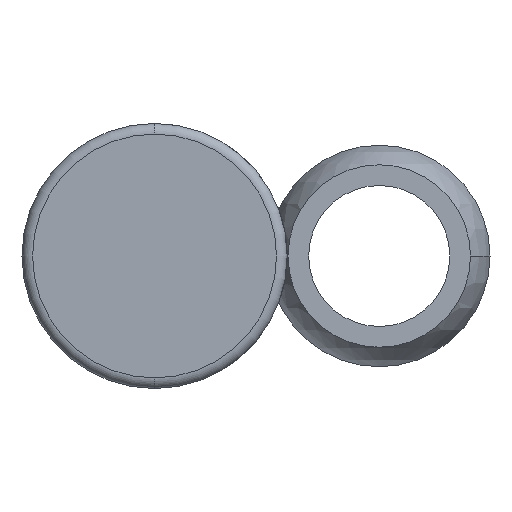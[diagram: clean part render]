
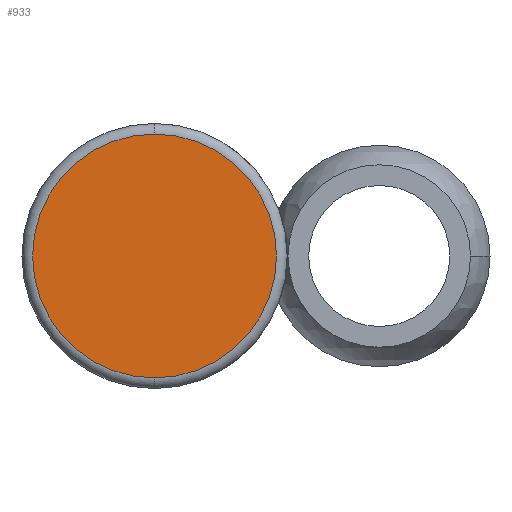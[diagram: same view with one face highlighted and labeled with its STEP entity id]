
A CAD part, front view. The second image highlights one B-rep face of the part: STEP entity #933.
In plain terms, the highlighted planar face has unit normal (0, -1, 0).
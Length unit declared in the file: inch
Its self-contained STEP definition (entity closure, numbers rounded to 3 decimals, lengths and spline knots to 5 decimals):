
#9 = DIRECTION ( 'NONE',  ( 0., 0., 1. ) ) ;
#23 = EDGE_CURVE ( 'NONE', #842, #512, #1288, .T. ) ;
#32 = DIRECTION ( 'NONE',  ( 0., 0., 1. ) ) ;
#99 = DIRECTION ( 'NONE',  ( 0., 0., 1. ) ) ;
#107 = EDGE_LOOP ( 'NONE', ( #1139, #1111 ) ) ;
#234 = EDGE_CURVE ( 'NONE', #512, #842, #858, .T. ) ;
#431 = AXIS2_PLACEMENT_3D ( 'NONE', #1125, #1005, #99 ) ;
#512 = VERTEX_POINT ( 'NONE', #988 ) ;
#748 = CARTESIAN_POINT ( 'NONE',  ( 0., -1.26, 0.34402 ) ) ;
#797 = AXIS2_PLACEMENT_3D ( 'NONE', #1088, #1180, #32 ) ;
#829 = PLANE ( 'NONE',  #922 ) ;
#842 = VERTEX_POINT ( 'NONE', #748 ) ;
#858 = CIRCLE ( 'NONE', #431, 0.34402 ) ;
#922 = AXIS2_PLACEMENT_3D ( 'NONE', #1031, #1149, #9 ) ;
#933 = ADVANCED_FACE ( 'NONE', ( #992 ), #829, .F. ) ;
#988 = CARTESIAN_POINT ( 'NONE',  ( 0., -1.26, -0.34402 ) ) ;
#992 = FACE_OUTER_BOUND ( 'NONE', #107, .T. ) ;
#1005 = DIRECTION ( 'NONE',  ( 0., -1., 0. ) ) ;
#1031 = CARTESIAN_POINT ( 'NONE',  ( 0., -1.26, 0. ) ) ;
#1088 = CARTESIAN_POINT ( 'NONE',  ( 0., -1.26, 0. ) ) ;
#1111 = ORIENTED_EDGE ( 'NONE', *, *, #234, .T. ) ;
#1125 = CARTESIAN_POINT ( 'NONE',  ( 0., -1.26, 0. ) ) ;
#1139 = ORIENTED_EDGE ( 'NONE', *, *, #23, .T. ) ;
#1149 = DIRECTION ( 'NONE',  ( 0., 1., 0. ) ) ;
#1180 = DIRECTION ( 'NONE',  ( 0., -1., 0. ) ) ;
#1288 = CIRCLE ( 'NONE', #797, 0.34402 ) ;
